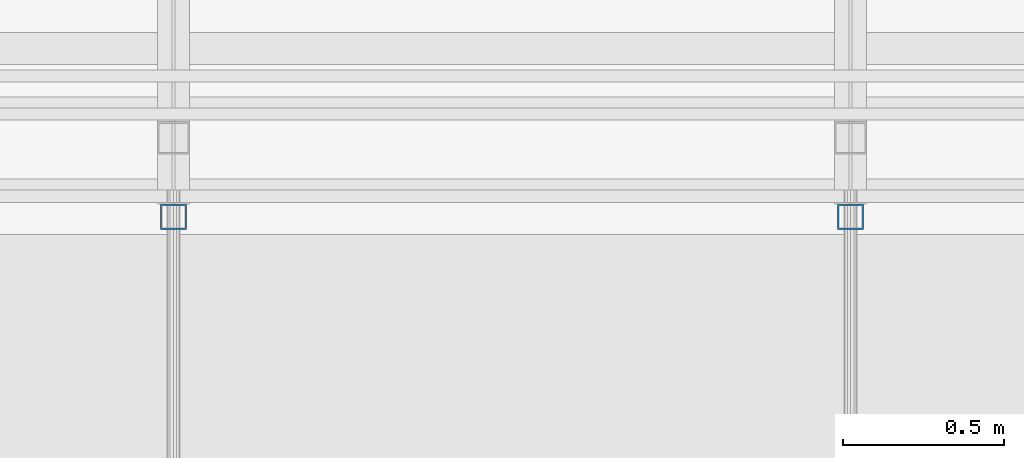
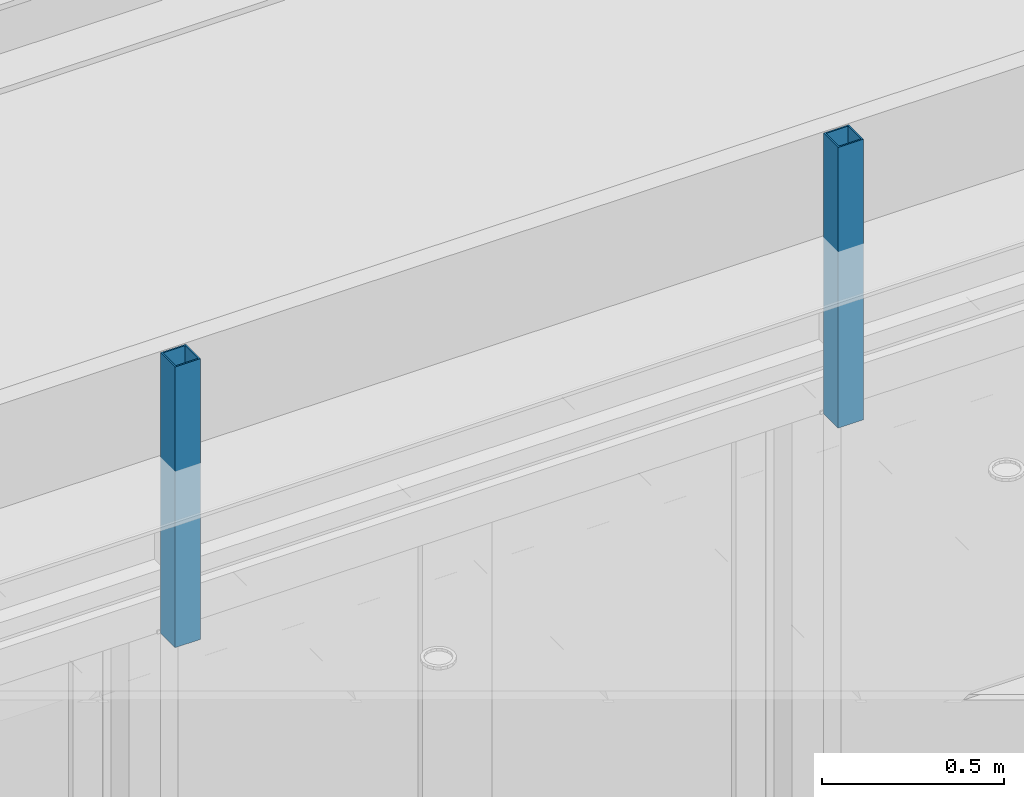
# One storey, part 23 of 347: 2 columns.
"""IFC2X3 building model written with IfcOpenShell, lengths in millimetres."""

from ifc_helpers import new_model, entity, si_unit, converted_unit, derived_unit, money_unit, direction, frame, origin_with_axes, place, context, subcontext, project, spatial, faceted_brep, material, type_object, element, save


model = new_model("IFC2X3")

# Units and contexts
model_context = context("Model", 3, precision=0.01, world=origin_with_axes(), true_north=direction((0.0, 1.0)))
plan_context = context("Plan", 3, precision=0.01, world=origin_with_axes(), true_north=direction((0.0, 1.0)))
body_context = subcontext(model_context, "Body", "Model", "MODEL_VIEW")
ifc_project = project(units=[si_unit("LENGTHUNIT", "METRE", prefix="MILLI"), si_unit("AREAUNIT", "SQUARE_METRE"), si_unit("VOLUMEUNIT", "CUBIC_METRE"), converted_unit("PLANEANGLEUNIT", "DEGREE", entity("IfcPlaneAngleMeasure", 0.0174532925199), si_unit("PLANEANGLEUNIT", "RADIAN"), dimensions=[0, 0, 0, 0, 0, 0, 0]), money_unit("EUR"), converted_unit("TIMEUNIT", "Year", entity("IfcTimeMeasure", 31556926.0), si_unit("TIMEUNIT", "SECOND"), dimensions=[0, 0, 1, 0, 0, 0, 0]), si_unit("MASSUNIT", "GRAM", prefix="KILO"), si_unit("THERMODYNAMICTEMPERATUREUNIT", "DEGREE_CELSIUS"), si_unit("LUMINOUSINTENSITYUNIT", "LUMEN"), si_unit("ENERGYUNIT", "JOULE", prefix="MEGA"), derived_unit("THERMALCONDUCTANCEUNIT", [(si_unit("POWERUNIT", "WATT"), 1), (si_unit("LENGTHUNIT", "METRE"), -1), (si_unit("THERMODYNAMICTEMPERATUREUNIT", "KELVIN"), -1)]), derived_unit("SPECIFICHEATCAPACITYUNIT", [(si_unit("ENERGYUNIT", "JOULE"), 1), (si_unit("MASSUNIT", "GRAM", prefix="KILO"), -1), (si_unit("THERMODYNAMICTEMPERATUREUNIT", "KELVIN"), -1)]), derived_unit("MASSDENSITYUNIT", [(si_unit("MASSUNIT", "GRAM", prefix="KILO"), 1), (si_unit("VOLUMEUNIT", "CUBIC_METRE"), -1)])], contexts=[model_context, plan_context])

# Site, building, storey
site_placement = place(None, origin_with_axes())
site = spatial("IfcSite", under=ifc_project, at=site_placement, Name="Site", CompositionType="ELEMENT")
building_placement = place(site_placement, origin_with_axes())
building = spatial("IfcBuilding", under=site, at=building_placement, Name="Naam gebouw", CompositionType="ELEMENT")
storey_placement = place(building_placement, origin_with_axes())
storey = spatial("IfcBuildingStorey", under=building, at=storey_placement, Name="begane grond", CompositionType="ELEMENT", Elevation=0.0)

# Columns
ifc_material = material(Name="Metaal - Staal C wit")
column_type = type_object("IfcColumnType", Name="Lucht 80 x 80", PredefinedType="COLUMN")
for number, where, z_axis, x_axis in (
    (1, (41125.0, 45108.0, 2620.0), (0.0, 0.0, 1.0), (1.0, 0.0, 0.0)),
    (2, (39025.0, 45108.0, 2620.0), (0.0, 0.0, 1.0), (1.0, 0.0, 0.0)),
):
    element("IfcColumn", number, at=place(storey_placement, frame(where, z_axis=z_axis, x_axis=x_axis)), inside=storey, type_object=column_type, material=ifc_material, Name="28_kolom ø 273mm", ObjectType="COLUMN", context=body_context, shape_type="Brep", body=[
        faceted_brep([(-40.0, -40.0, 0.0), (40.0, -40.0, 0.0), (40.0, -40.0, 940.0), (-40.0, -40.0, 940.0), (-40.0, 40.0, 0.0), (40.0, 40.0, 0.0), (-35.0, -35.0, 0.0), (35.0, -35.0, 0.0), (35.0, 35.0, 0.0), (-35.0, 35.0, 0.0), (40.0, 40.0, 940.0), (-40.0, 40.0, 940.0), (-35.0, -35.0, 940.0), (-35.0, 35.0, 940.0), (35.0, 35.0, 940.0), (35.0, -35.0, 940.0)], [[[0, 1, 2, 3]], [[0, 4, 5, 1], [6, 7, 8, 9]], [[1, 5, 10, 2]], [[3, 2, 10, 11], [12, 13, 14, 15]], [[4, 0, 3, 11]], [[5, 4, 11, 10]], [[7, 6, 12, 15]], [[8, 7, 15, 14]], [[9, 8, 14, 13]], [[6, 9, 13, 12]]]),
    ])

save(model, "model.ifc")
